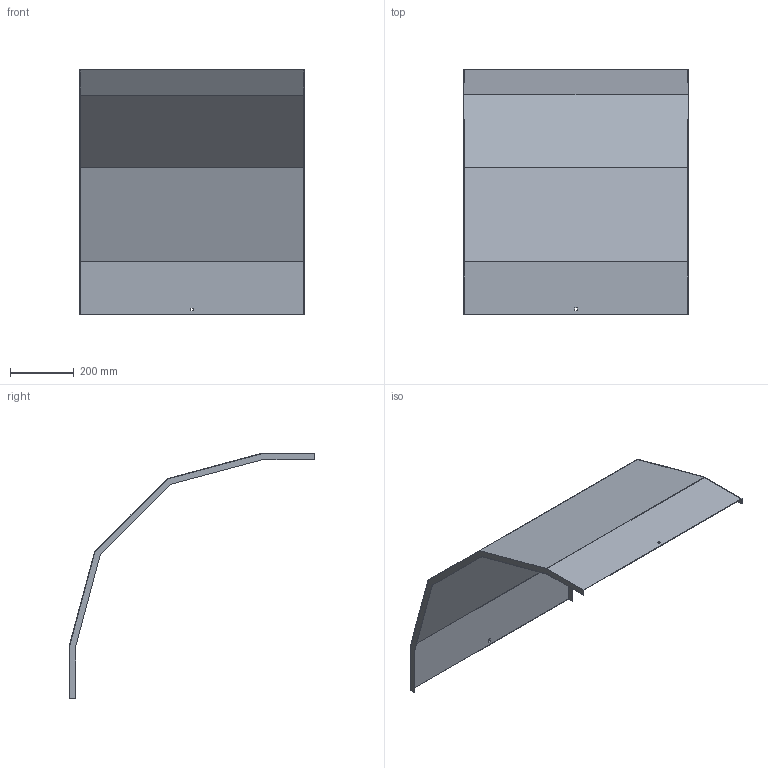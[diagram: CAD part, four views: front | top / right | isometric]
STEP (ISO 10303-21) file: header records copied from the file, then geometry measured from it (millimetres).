
FILE_DESCRIPTION (( 'STEP AP214' ), '1' );
FILE_NAME ('33N5D700.step', '2025-02-21T10:43:32', ( '' ), ( '' ), 'SwSTEP 2.0', 'SolidWorks 2023', '' );
FILE_SCHEMA (( 'AUTOMOTIVE_DESIGN' ));
Length unit declared in the file: millimetre
Products named in the file (1): 33N5D700
Bounding box: 703 x 769.82 x 769.82 mm (x, y, z)
Volume: 1405051.3 mm3; surface area: 1879426.4 mm2
Topology: 1 solids, 1 shells, 34 faces, 96 edges, 64 vertices
Faces by surface type: plane 34
Entity records: 1111 total; most frequent: CARTESIAN_POINT 195, ORIENTED_EDGE 192, DIRECTION 166, VECTOR 96, EDGE_CURVE 96, LINE 96, VERTEX_POINT 64, EDGE_LOOP 38
